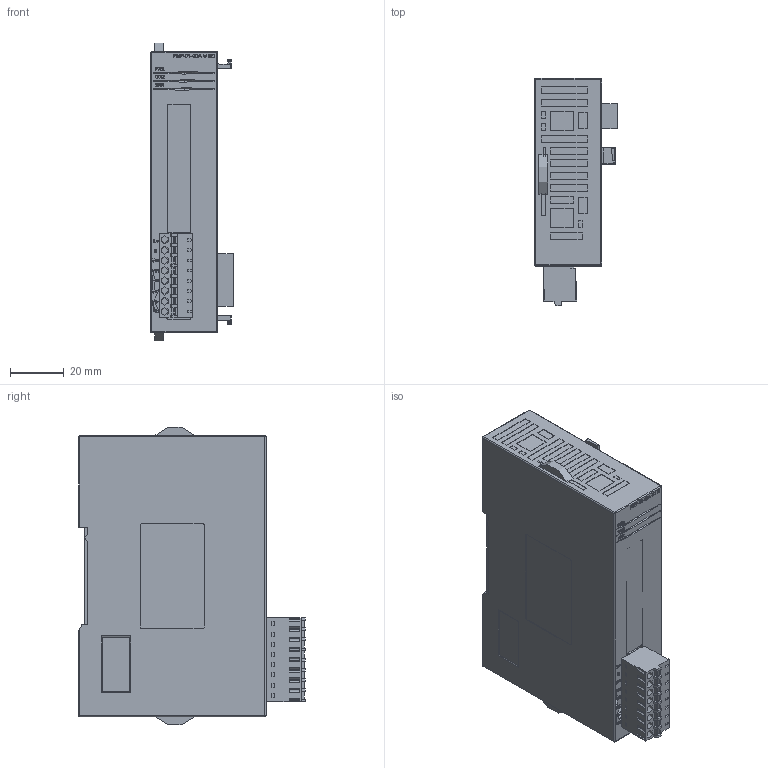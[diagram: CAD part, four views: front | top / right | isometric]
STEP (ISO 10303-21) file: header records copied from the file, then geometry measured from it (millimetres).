
FILE_DESCRIPTION(('STEP AP242'), '1');
FILE_NAME('PMP-01-4DA-V-ED', '', ('UNSPECIFIED'), ('UNSPECIFIED'), 'C3D Converter', 'C3D Toolkit', '');
FILE_SCHEMA(('AP242_MANAGED_MODEL_BASED_3D_ENGINEERING_MIM_LF { 1 0 10303 442 1 1 4 }'));
Length unit declared in the file: millimetre
Products named in the file (1): PMP-01-4DA-V-ED
Bounding box: 30.8 x 84.71 x 110.91 mm (x, y, z)
Surface area: 29154.1 mm2
Topology: 15 solids, 32 shells, 1295 faces, 3459 edges, 2308 vertices
Faces by surface type: plane 953, bspline 172, cylinder 86, extrusion 84
Full cylindrical faces by diameter (mm): 3 x8
Entity records: 66140 total; most frequent: CARTESIAN_POINT 24873, ORIENTED_EDGE 6796, DIRECTION 5131, EDGE_CURVE 3450, VECTOR 2625, LINE 2541, VERTEX_POINT 2308, EDGE_LOOP 1460
